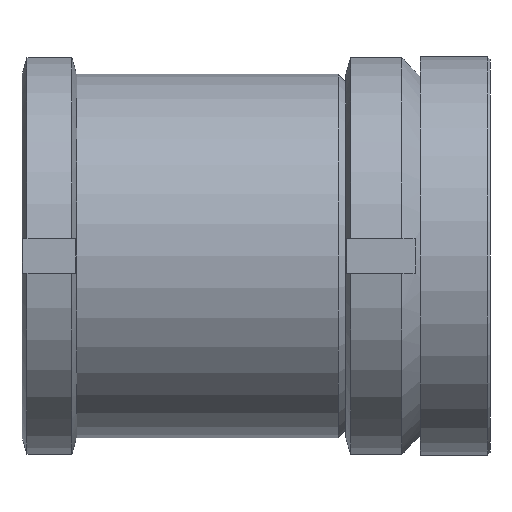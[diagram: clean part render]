
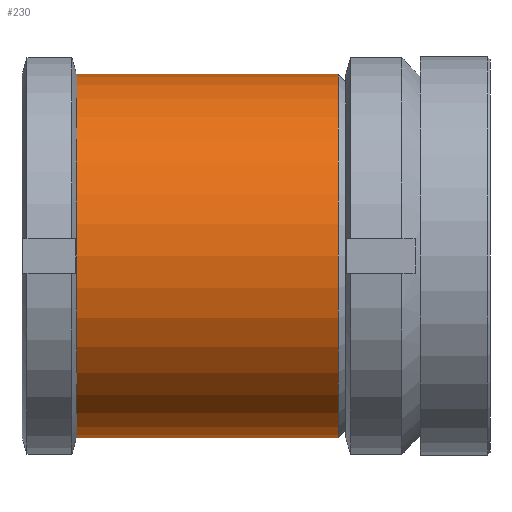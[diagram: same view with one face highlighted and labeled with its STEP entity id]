
A CAD part, front view. The second image highlights one B-rep face of the part: STEP entity #230.
In plain terms, the highlighted cylindrical face has radius 36.5 mm (diameter 73 mm), a full revolution.
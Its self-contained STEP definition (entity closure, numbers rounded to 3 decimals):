
#230 = ADVANCED_FACE( '', ( #326, #327 ), #328, .T. );
#326 = FACE_OUTER_BOUND( '', #481, .T. );
#327 = FACE_OUTER_BOUND( '', #482, .T. );
#328 = CYLINDRICAL_SURFACE( '', #483, 36.5 );
#481 = EDGE_LOOP( '', ( #761 ) );
#482 = EDGE_LOOP( '', ( #762 ) );
#483 = AXIS2_PLACEMENT_3D( '', #763, #764, #765 );
#761 = ORIENTED_EDGE( '', *, *, #1032, .F. );
#762 = ORIENTED_EDGE( '', *, *, #1066, .T. );
#763 = CARTESIAN_POINT( '', ( 0., 0., 0. ) );
#764 = DIRECTION( '', ( 0., 1., 0. ) );
#765 = DIRECTION( '', ( 0., 0., -1. ) );
#1032 = EDGE_CURVE( '', #1174, #1174, #1175, .T. );
#1066 = EDGE_CURVE( '', #1227, #1227, #1228, .T. );
#1174 = VERTEX_POINT( '', #1458 );
#1175 = CIRCLE( '', #1459, 36.5 );
#1227 = VERTEX_POINT( '', #1579 );
#1228 = CIRCLE( '', #1580, 36.5 );
#1458 = CARTESIAN_POINT( '', ( 0., 11., -36.5 ) );
#1459 = AXIS2_PLACEMENT_3D( '', #1795, #1796, #1797 );
#1579 = CARTESIAN_POINT( '', ( 0., 63.5, -36.5 ) );
#1580 = AXIS2_PLACEMENT_3D( '', #1836, #1837, #1838 );
#1795 = CARTESIAN_POINT( '', ( 0., 11., 0. ) );
#1796 = DIRECTION( '', ( 0., -1., 0. ) );
#1797 = DIRECTION( '', ( 0., 0., -1. ) );
#1836 = CARTESIAN_POINT( '', ( 0., 63.5, 0. ) );
#1837 = DIRECTION( '', ( 0., -1., 0. ) );
#1838 = DIRECTION( '', ( 0., 0., -1. ) );
